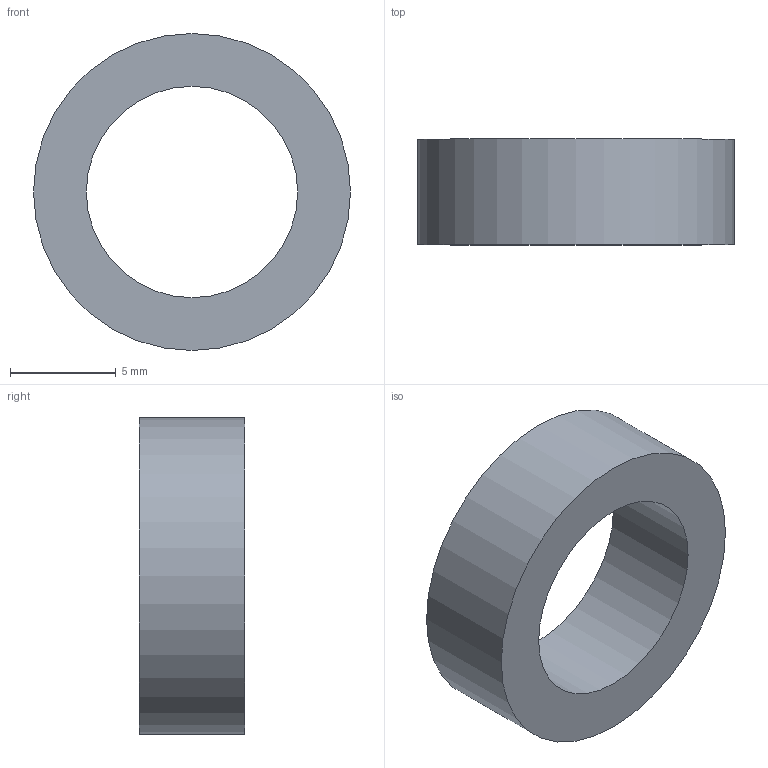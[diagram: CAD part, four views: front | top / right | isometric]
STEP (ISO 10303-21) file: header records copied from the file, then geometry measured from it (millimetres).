
FILE_DESCRIPTION (( 'STEP AP214' ), '1' );
FILE_NAME ('10FF.015.001.16R.STEP', '2026-03-23T19:57:04', ( '' ), ( '' ), 'SwSTEP 2.0', 'SolidWorks 2025', '' );
FILE_SCHEMA (( 'AUTOMOTIVE_DESIGN' ));
Length unit declared in the file: millimetre
Products named in the file (1): 10FF.015.001.16R
Bounding box: 15 x 5 x 15 mm (x, y, z)
Volume: 490.9 mm3; surface area: 589 mm2
Topology: 1 solids, 1 shells, 4 faces, 6 edges, 4 vertices
Faces by surface type: plane 2, cylinder 2
Full cylindrical faces by diameter (mm): 10 x1, 15 x1
Entity records: 111 total; most frequent: DIRECTION 18, CARTESIAN_POINT 13, AXIS2_PLACEMENT_3D 9, ORIENTED_EDGE 8, EDGE_LOOP 8, FACE_OUTER_BOUND 6, EDGE_CURVE 4, CIRCLE 4
